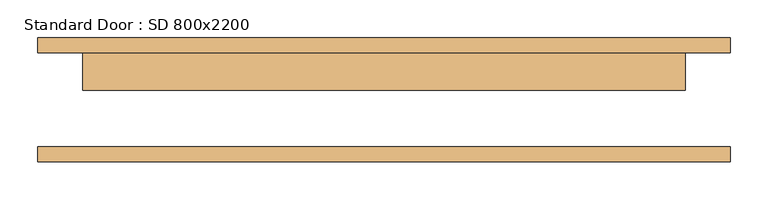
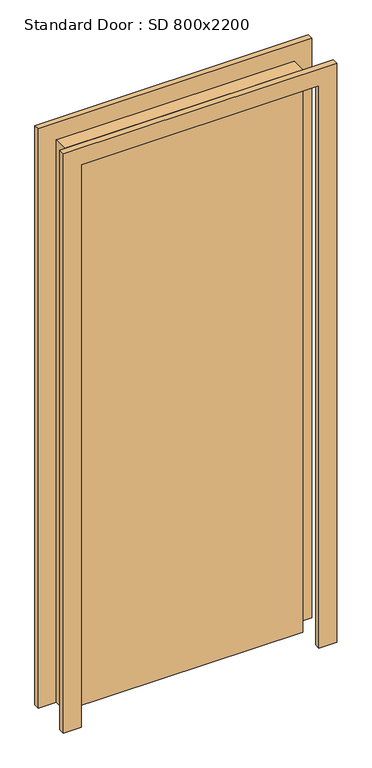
"""IFC4 building model written with IfcOpenShell, lengths in millimetres: door geometry, Standard Door : SD 800x2200."""

from ifc_helpers import new_model, si_unit, frame, origin, origin_with_axes, place, context, project, spatial, polyline, outline, extrude, source, transform, mapped, element, save


def standard_door_sd_800x2200_b1a20562(model_context):
    return source(origin(), model_context, "Body", "SweptSolid", [
        extrude(outline(polyline([(2060.0, -460.0), (0.0, -460.0), (0.0, -400.0), (2000.0, -400.0), (2000.0, 400.0), (0.0, 400.0), (0.0, 460.0), (2060.0, 460.0), (2060.0, -460.0)])), frame((0.0, 62.5, 0.0), z_axis=(0.0, 1.0, 0.0), x_axis=(0.0, 0.0, 1.0)), (0.0, 0.0, 1.0), 20.0),
        extrude(outline(polyline([(2060.0, 460.0), (2060.0, -460.0), (0.0, -460.0), (0.0, -400.0), (2000.0, -400.0), (2000.0, 400.0), (0.0, 400.0), (0.0, 460.0), (2060.0, 460.0)])), frame((0.0, -82.5, 0.0), z_axis=(0.0, 1.0, 0.0), x_axis=(0.0, 0.0, 1.0)), (0.0, 0.0, 1.0), 20.0),
        extrude(outline(polyline([(400.0, 12.5), (-400.0, 12.5), (-400.0, 62.5), (400.0, 62.5), (400.0, 12.5)])), origin_with_axes(), (0.0, 0.0, 1.0), 2000.0),
    ])


if __name__ == "__main__":
    model = new_model("IFC4")
    model_context = context("Model", 3, world=origin())
    ifc_project = project(units=[si_unit("LENGTHUNIT", "METRE", prefix="MILLI")], contexts=[model_context])
    site = spatial("IfcSite", under=ifc_project)
    building = spatial("IfcBuilding", under=site)
    placement = place(None, origin())
    standard_door_sd_800x2200_shape = standard_door_sd_800x2200_b1a20562(model_context)
    element("IfcDoor", 1, ObjectType="Standard Door : SD 800x2200", at=placement, inside=building, context=model_context, shape_type="MappedRepresentation", body=[
        mapped(standard_door_sd_800x2200_shape, transform((0.0, 0.0, 0.0), x_axis=(1.0, 0.0, 0.0), y_axis=(0.0, 1.0, 0.0), z_axis=(0.0, 0.0, 1.0))),
    ])
    save(model, "model.ifc")
